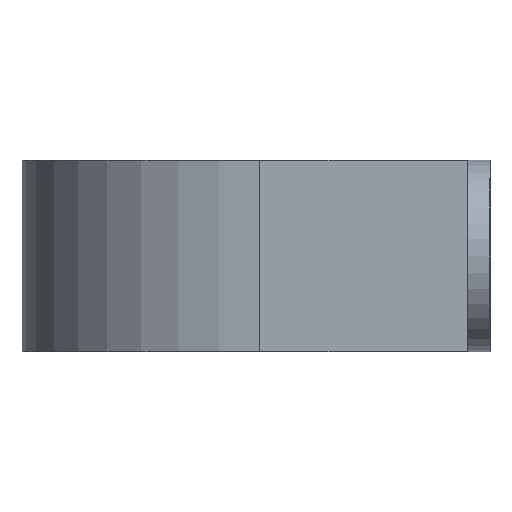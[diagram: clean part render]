
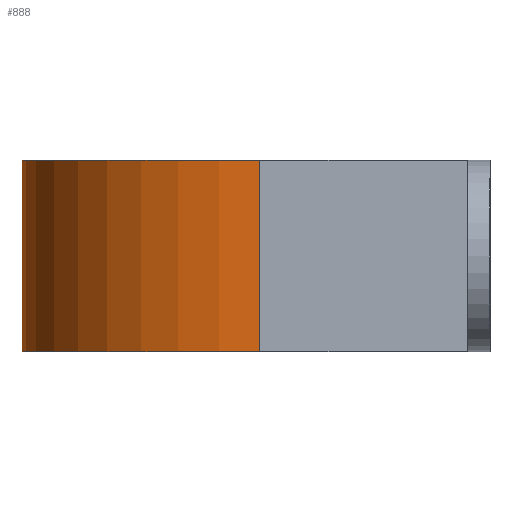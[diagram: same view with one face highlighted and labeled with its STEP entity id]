
A CAD part, left-side view. The second image highlights one B-rep face of the part: STEP entity #888.
In plain terms, the highlighted cylindrical face has radius 24.8 mm (diameter 49.6 mm), a partial arc.
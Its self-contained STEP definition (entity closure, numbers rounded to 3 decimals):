
#12 = CARTESIAN_POINT ( 'NONE',  ( -24.8, 24., 10. ) ) ;
#30 = CARTESIAN_POINT ( 'NONE',  ( 24.8, 24., -10. ) ) ;
#61 = CARTESIAN_POINT ( 'NONE',  ( 0., 24., 10. ) ) ;
#63 = EDGE_CURVE ( 'NONE', #171, #814, #391, .T. ) ;
#64 = DIRECTION ( 'NONE',  ( 0., 0., 1. ) ) ;
#108 = DIRECTION ( 'NONE',  ( -1., 0., 0. ) ) ;
#171 = VERTEX_POINT ( 'NONE', #497 ) ;
#211 = EDGE_LOOP ( 'NONE', ( #409, #341, #668, #268 ) ) ;
#223 = EDGE_CURVE ( 'NONE', #171, #734, #490, .T. ) ;
#237 = VECTOR ( 'NONE', #792, 1000. ) ;
#268 = ORIENTED_EDGE ( 'NONE', *, *, #223, .T. ) ;
#329 = EDGE_CURVE ( 'NONE', #814, #810, #453, .T. ) ;
#341 = ORIENTED_EDGE ( 'NONE', *, *, #329, .F. ) ;
#350 = DIRECTION ( 'NONE',  ( 0., 0., -1. ) ) ;
#356 = AXIS2_PLACEMENT_3D ( 'NONE', #622, #547, #108 ) ;
#391 = CIRCLE ( 'NONE', #356, 24.8 ) ;
#409 = ORIENTED_EDGE ( 'NONE', *, *, #439, .T. ) ;
#439 = EDGE_CURVE ( 'NONE', #734, #810, #846, .T. ) ;
#453 = LINE ( 'NONE', #12, #237 ) ;
#490 = LINE ( 'NONE', #776, #922 ) ;
#492 = DIRECTION ( 'NONE',  ( 0., 0., -1. ) ) ;
#497 = CARTESIAN_POINT ( 'NONE',  ( 24.8, 24., 10. ) ) ;
#546 = CARTESIAN_POINT ( 'NONE',  ( -24.8, 24., 10. ) ) ;
#547 = DIRECTION ( 'NONE',  ( 0., 0., 1. ) ) ;
#567 = DIRECTION ( 'NONE',  ( -1., 0., 0. ) ) ;
#622 = CARTESIAN_POINT ( 'NONE',  ( 0., 24., 10. ) ) ;
#628 = AXIS2_PLACEMENT_3D ( 'NONE', #61, #492, #567 ) ;
#632 = CYLINDRICAL_SURFACE ( 'NONE', #628, 24.8 ) ;
#668 = ORIENTED_EDGE ( 'NONE', *, *, #63, .F. ) ;
#703 = FACE_OUTER_BOUND ( 'NONE', #211, .T. ) ;
#709 = DIRECTION ( 'NONE',  ( 1., 0., 0. ) ) ;
#734 = VERTEX_POINT ( 'NONE', #30 ) ;
#776 = CARTESIAN_POINT ( 'NONE',  ( 24.8, 24., 10. ) ) ;
#778 = CARTESIAN_POINT ( 'NONE',  ( 0., 24., -10. ) ) ;
#792 = DIRECTION ( 'NONE',  ( 0., 0., -1. ) ) ;
#810 = VERTEX_POINT ( 'NONE', #812 ) ;
#812 = CARTESIAN_POINT ( 'NONE',  ( -24.8, 24., -10. ) ) ;
#814 = VERTEX_POINT ( 'NONE', #546 ) ;
#846 = CIRCLE ( 'NONE', #907, 24.8 ) ;
#888 = ADVANCED_FACE ( 'NONE', ( #703 ), #632, .T. ) ;
#907 = AXIS2_PLACEMENT_3D ( 'NONE', #778, #64, #709 ) ;
#922 = VECTOR ( 'NONE', #350, 1000. ) ;
